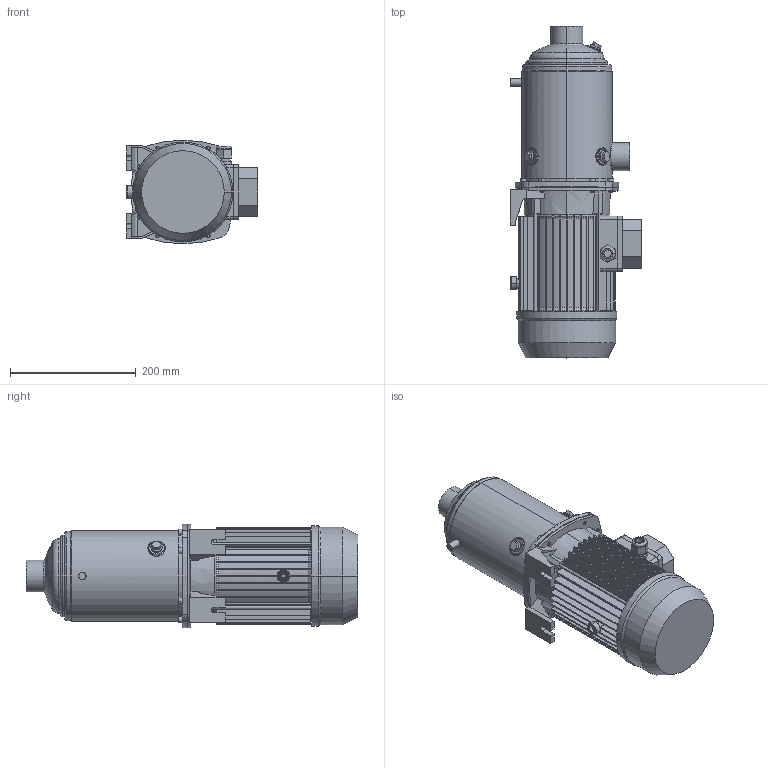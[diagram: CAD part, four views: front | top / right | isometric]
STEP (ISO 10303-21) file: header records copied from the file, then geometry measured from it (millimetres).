
FILE_DESCRIPTION((''),'2;1');
FILE_NAME('MATRIX_10-6T_2_2_IE3_ASM','2018-01-27T',('rosa'),('"Ebara Pumps Europe +39.444.706811"'),'PRO/ENGINEER BY PARAMETRIC TECHNOLOGY CORPORATION, 2012130','PRO/ENGINEER BY PARAMETRIC TECHNOLOGY CORPORATION, 2012130','');
FILE_SCHEMA(('AUTOMOTIVE_DESIGN { 1 0 10303 214 1 1 1 1 }'));
Length unit declared in the file: millimetre
Products named in the file (5): CORPO_POMPA_MATRIX_10-6; SUPPORTO_MATRIX_MEC_80; MEC_80X130_IE3; 72229; MATRIX_10-6T_2_2_IE3_ASM
Assembly tree (4 placements, depth 2):
  MATRIX_10-6T_2_2_IE3_ASM
    CORPO_POMPA_MATRIX_10-6
    SUPPORTO_MATRIX_MEC_80
    MEC_80X130_IE3
    72229
Bounding box: 209 x 528.8 x 165 mm (x, y, z)
Volume: 6355655.8 mm3; surface area: 608697.6 mm2
Topology: 4 solids, 4 shells, 721 faces, 1735 edges, 1071 vertices
Faces by surface type: plane 378, cylinder 188, cone 102, torus 37, bspline 14, sphere 2
Entity records: 28383 total; most frequent: CARTESIAN_POINT 5587, DIRECTION 3670, ORIENTED_EDGE 3470, EDGE_CURVE 1735, PRESENTATION_STYLE_ASSIGNMENT 1688, STYLED_ITEM 1688, CURVE_STYLE 1685, AXIS2_PLACEMENT_3D 1405
